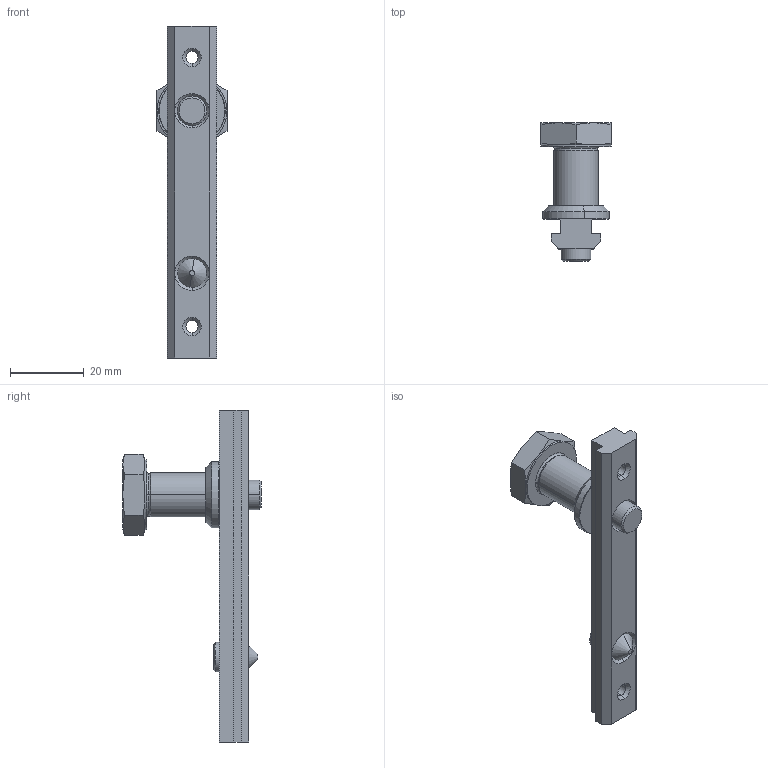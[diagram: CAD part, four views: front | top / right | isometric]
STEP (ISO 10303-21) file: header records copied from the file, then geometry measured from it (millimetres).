
FILE_DESCRIPTION (( 'STEP AP214' ), '1' );
FILE_NAME ('1.8052 Kiinnityssarja 12.STEP', '2025-09-18T07:27:17', ( '' ), ( '' ), 'SwSTEP 2.0', 'SolidWorks 2025', '' );
FILE_SCHEMA (( 'AUTOMOTIVE_DESIGN' ));
Length unit declared in the file: millimetre
Products named in the file (1): 1.8052 Kiinnityssarja 12
Bounding box: 19 x 37.5 x 90 mm (x, y, z)
Volume: 12403.8 mm3; surface area: 7123.8 mm2
Topology: 4 solids, 4 shells, 101 faces, 224 edges, 132 vertices
Faces by surface type: cone 38, plane 35, cylinder 22, torus 6
Entity records: 4009 total; most frequent: CARTESIAN_POINT 578, DIRECTION 498, ORIENTED_EDGE 448, EDGE_CURVE 224, AXIS2_PLACEMENT_3D 196, VERTEX_POINT 132, EDGE_LOOP 112, LINE 106
